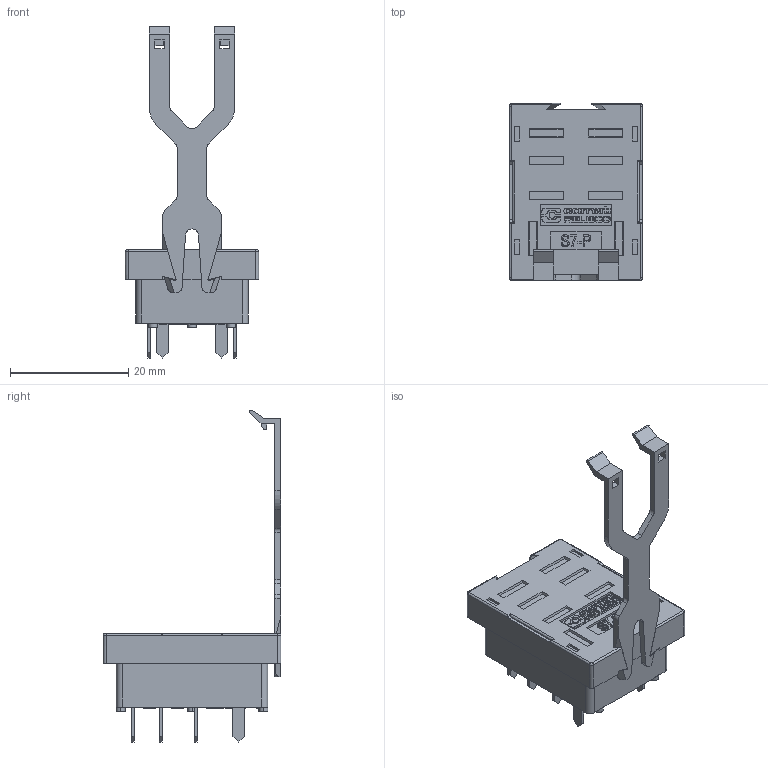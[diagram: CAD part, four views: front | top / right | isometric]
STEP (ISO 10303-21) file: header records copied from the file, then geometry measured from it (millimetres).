
FILE_DESCRIPTION (( 'STEP AP214' ), '1' );
FILE_NAME ('S7-P.STEP', '2024-04-09T10:50:07', ( '' ), ( '' ), 'SwSTEP 2.0', 'SolidWorks 2022', '' );
FILE_SCHEMA (( 'AUTOMOTIVE_DESIGN' ));
Length unit declared in the file: millimetre
Products named in the file (1): S7-P
Bounding box: 22.5 x 30 x 56.05 mm (x, y, z)
Volume: 7217.1 mm3; surface area: 3649.9 mm2
Topology: 1 solids, 1 shells, 730 faces, 1937 edges, 1281 vertices
Faces by surface type: plane 510, bspline 127, cylinder 89, torus 4
Entity records: 27922 total; most frequent: CARTESIAN_POINT 9993, ORIENTED_EDGE 3866, DIRECTION 2789, EDGE_CURVE 1933, LINE 1345, VECTOR 1345, VERTEX_POINT 1279, EDGE_LOOP 810
